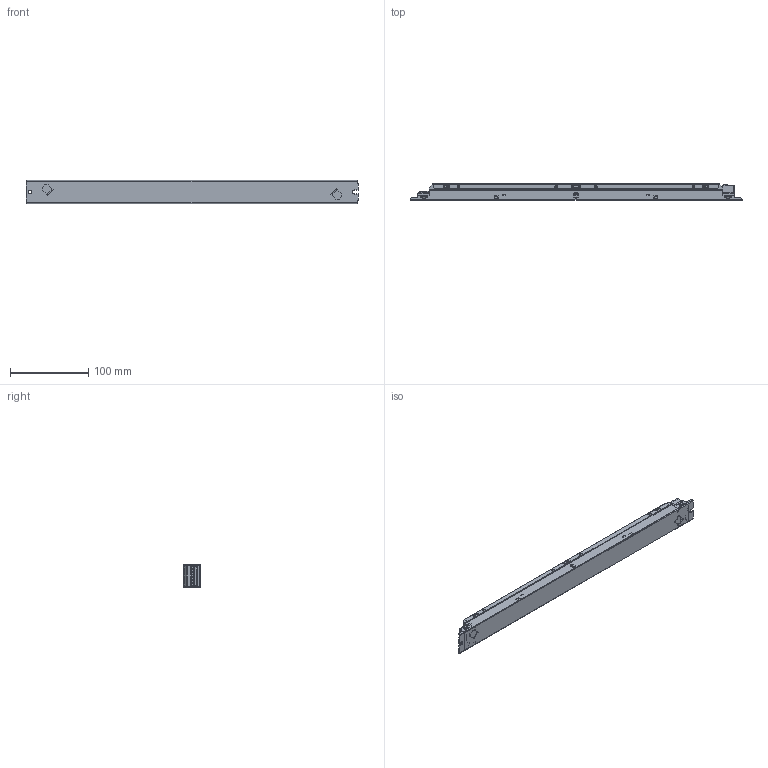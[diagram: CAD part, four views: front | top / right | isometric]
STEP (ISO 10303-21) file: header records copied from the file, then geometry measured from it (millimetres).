
FILE_DESCRIPTION (( 'STEP AP214' ), '1' );
FILE_NAME ('OTi DALI 150_220-240_1A0 D NFC IND L.STEP', '2019-07-16T11:16:23', ( '' ), ( '' ), 'SwSTEP 2.0', 'SolidWorks 2017', '' );
FILE_SCHEMA (( 'AUTOMOTIVE_DESIGN' ));
Length unit declared in the file: millimetre
Products named in the file (1): OTi DALI 150_220-240_1A0 D NFC IND L
Bounding box: 424 x 21 x 30 mm (x, y, z)
Volume: 227073.7 mm3; surface area: 85111.1 mm2
Topology: 1 solids, 1 shells, 2255 faces, 6183 edges, 3952 vertices
Faces by surface type: plane 1298, cylinder 615, bspline 264, sphere 46, cone 32
Entity records: 112845 total; most frequent: CARTESIAN_POINT 33088, ORIENTED_EDGE 12326, DIRECTION 10226, EDGE_CURVE 6163, VECTOR 4154, LINE 4154, VERTEX_POINT 3952, AXIS2_PLACEMENT_3D 3036
